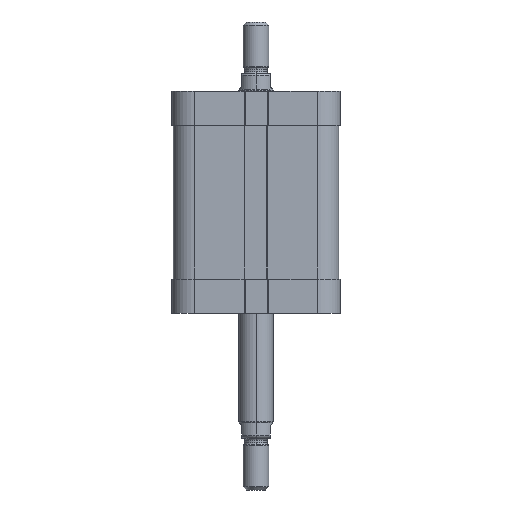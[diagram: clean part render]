
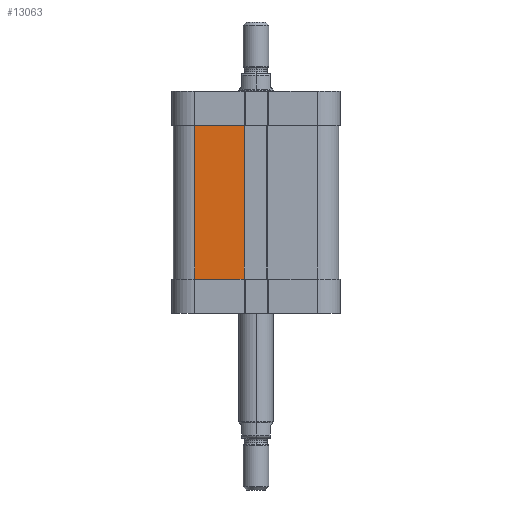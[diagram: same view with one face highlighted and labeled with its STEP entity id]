
A CAD part, left-side view. The second image highlights one B-rep face of the part: STEP entity #13063.
In plain terms, the highlighted planar face has unit normal (-1, 0, 0).
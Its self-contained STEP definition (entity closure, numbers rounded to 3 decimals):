
#8727=CARTESIAN_POINT('',(-26.75,-9.85,-11.6));
#8728=VERTEX_POINT('',#8727);
#8736=CARTESIAN_POINT('',(-26.75,13.0,-11.6));
#8737=VERTEX_POINT('',#8736);
#8738=CARTESIAN_POINT('',(-26.75,13.0,-11.6));
#8739=DIRECTION('',(0.0,-1.0,0.0));
#8740=VECTOR('',#8739,22.85);
#8741=LINE('',#8738,#8740);
#8742=EDGE_CURVE('',#8737,#8728,#8741,.T.);
#10281=CARTESIAN_POINT('',(-26.75,13.0,59.8));
#10282=VERTEX_POINT('',#10281);
#10290=CARTESIAN_POINT('',(-26.75,-9.85,59.8));
#10291=VERTEX_POINT('',#10290);
#10292=CARTESIAN_POINT('',(-26.75,-9.85,59.8));
#10293=DIRECTION('',(0.0,1.0,0.0));
#10294=VECTOR('',#10293,22.85);
#10295=LINE('',#10292,#10294);
#10296=EDGE_CURVE('',#10291,#10282,#10295,.T.);
#12983=CARTESIAN_POINT('',(-26.75,-9.85,59.8));
#12984=DIRECTION('',(0.0,0.0,-1.0));
#12985=VECTOR('',#12984,71.4);
#12986=LINE('',#12983,#12985);
#12987=EDGE_CURVE('',#10291,#8728,#12986,.T.);
#13047=CARTESIAN_POINT('',(-26.75,-43.8,-11.6));
#13048=DIRECTION('',(-1.0,0.0,0.0));
#13049=DIRECTION('',(0.0,0.0,1.0));
#13050=AXIS2_PLACEMENT_3D('',#13047,#13048,#13049);
#13051=PLANE('',#13050);
#13052=ORIENTED_EDGE('',*,*,#12987,.F.);
#13053=ORIENTED_EDGE('',*,*,#10296,.T.);
#13054=CARTESIAN_POINT('',(-26.75,13.0,-11.6));
#13055=DIRECTION('',(0.0,0.0,1.0));
#13056=VECTOR('',#13055,71.4);
#13057=LINE('',#13054,#13056);
#13058=EDGE_CURVE('',#8737,#10282,#13057,.T.);
#13059=ORIENTED_EDGE('',*,*,#13058,.F.);
#13060=ORIENTED_EDGE('',*,*,#8742,.T.);
#13061=EDGE_LOOP('',(#13052,#13053,#13059,#13060));
#13062=FACE_OUTER_BOUND('',#13061,.T.);
#13063=ADVANCED_FACE('',(#13062),#13051,.T.);
